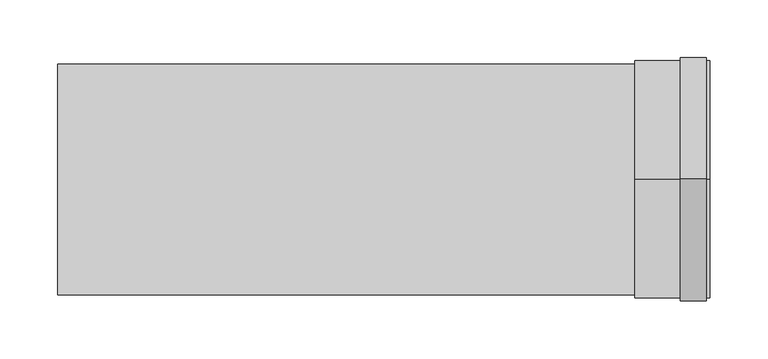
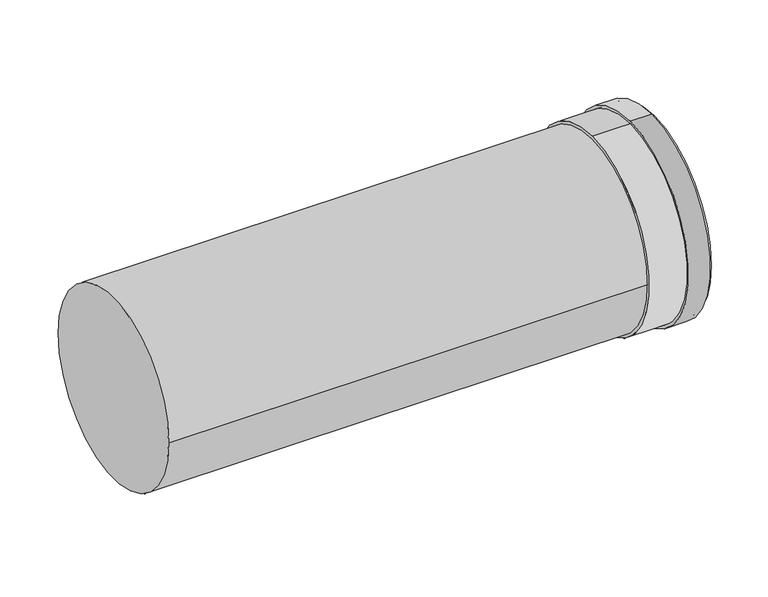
"""IFC4 building model written with IfcOpenShell, lengths in millimetres: duct fitting geometry, RSFen_DUF_UN_Twinline Extension_M&G : ø130-150-200."""

from ifc_helpers import new_model, si_unit, point, frame, origin, origin_2d, place, context, project, spatial, polyline, circle_curve, trimmed, segment, composite_curve, outline, extrude, source, transform, mapped, element, save
from ifc_brep_helpers import plane_surface, cylinder_surface, revolved_surface, advanced_brep


def duct_fitting_3590a55b(model_context):
    return source(origin(), model_context, "Body", "SolidModel", [
        extrude(outline(composite_curve([segment(trimmed(circle_curve(origin_2d(), 106.0), [point((0.0, 106.0))], [point((0.0, -106.0))], False, "CARTESIAN"), True, "CONTINUOUS"), segment(trimmed(circle_curve(origin_2d(), 106.0), [point((0.0, -106.0))], [point((0.0, 106.0))], False, "CARTESIAN"), True, "CONTINUOUS")], self_intersect=False), holes=[composite_curve([segment(trimmed(circle_curve(origin_2d(), 103.0), [point((0.0, -103.0))], [point((0.0, 103.0))], True, "CARTESIAN"), True, "CONTINUOUS"), segment(trimmed(circle_curve(origin_2d(), 103.0), [point((0.0, 103.0))], [point((0.0, -103.0))], True, "CARTESIAN"), True, "CONTINUOUS")], self_intersect=False)]), frame((539.5, 0.0, 0.0), z_axis=(1.0, 0.0, 0.0), x_axis=(0.0, 1.0, 0.0)), (0.0, 0.0, 1.0), 22.5),
        advanced_brep(
        [(565.0, 0.0, -103.0), (565.0, 0.0, 103.0), (565.0, 0.0, 99.0), (565.0, 0.0, -99.0), (500.0, 0.0, -103.0), (500.0, 0.0, 103.0), (505.0, 0.0, -99.0), (505.0, 0.0, 99.0)],
        [
            (0, 1, circle_curve(frame((565.0, 0.0, 0.0), z_axis=(1.0, 0.0, 0.0), x_axis=(0.0, 0.0, 1.0)), 103.0)),
            (1, 0, circle_curve(frame((565.0, 0.0, 0.0), z_axis=(1.0, 0.0, 0.0), x_axis=(0.0, 0.0, 1.0)), 103.0)),
            (2, 3, circle_curve(frame((565.0, 0.0, 0.0), z_axis=(-1.0, 0.0, 0.0), x_axis=(0.0, 0.0, 1.0)), 99.0)),
            (3, 2, circle_curve(frame((565.0, 0.0, 0.0), z_axis=(-1.0, 0.0, 0.0), x_axis=(0.0, 0.0, 1.0)), 99.0)),
            (4, 5, circle_curve(frame((500.0, 0.0, 0.0), z_axis=(-1.0, 0.0, 0.0), x_axis=(0.0, 0.0, 1.0)), 103.0)),
            (5, 4, circle_curve(frame((500.0, 0.0, 0.0), z_axis=(-1.0, 0.0, 0.0), x_axis=(0.0, 0.0, 1.0)), 103.0)),
            (0, 4),
            (5, 1),
            (6, 7, circle_curve(frame((505.0, 0.0, 0.0), z_axis=(1.0, 0.0, 0.0), x_axis=(0.0, 0.0, 1.0)), 99.0)),
            (7, 6, circle_curve(frame((505.0, 0.0, 0.0), z_axis=(1.0, 0.0, 0.0), x_axis=(0.0, 0.0, 1.0)), 99.0)),
            (6, 3),
            (2, 7),
        ],
        [
            plane_surface(frame((565.0, 0.0, 103.0), z_axis=(1.0, 0.0, 0.0), x_axis=(0.0, -1.0, 0.0))),
            plane_surface(frame((500.0, 0.0, 103.0), z_axis=(-1.0, 0.0, 0.0), x_axis=(0.0, 1.0, 0.0))),
            cylinder_surface(frame((500.0, 0.0, 0.0), z_axis=(1.0, 0.0, 0.0), x_axis=(0.0, 0.0, 1.0)), 103.0),
            plane_surface(frame((505.0, 0.0, 99.0), z_axis=(1.0, 0.0, 0.0), x_axis=(0.0, 1.0, 0.0))),
            revolved_surface(polyline([(565.0, 0.0, 99.0), (505.0, 0.0, 99.0)]), (505.0, 0.0, 0.0), (1.0, 0.0, 0.0)),
        ],
        [
            (0, [[1, 2], [3, 4]]),
            (1, [[5, 6]]),
            (2, [[-1, 7, -6, 8]]),
            (2, [[-2, -8, -5, -7]]),
            (3, [[9, 10]]),
            (4, [[-9, 11, -3, 12]]),
            (4, [[-10, -12, -4, -11]]),
        ],
    ),
        extrude(outline(composite_curve([segment(trimmed(circle_curve(origin_2d(), 100.0), [point((100.0, 0.0))], [point((-100.0, 0.0))], False, "CARTESIAN"), True, "CONTINUOUS"), segment(trimmed(circle_curve(origin_2d(), 100.0), [point((-100.0, 0.0))], [point((100.0, 0.0))], False, "CARTESIAN"), True, "CONTINUOUS")], self_intersect=False)), frame((-2.39e-05, 0.0, 0.0), z_axis=(1.0, 0.0, 0.0), x_axis=(0.0, 1.0, 0.0)), (0.0, 0.0, 1.0), 505.0),
    ])


if __name__ == "__main__":
    model = new_model("IFC4")
    model_context = context("Model", 3, world=origin())
    ifc_project = project(units=[si_unit("LENGTHUNIT", "METRE", prefix="MILLI")], contexts=[model_context])
    site = spatial("IfcSite", under=ifc_project)
    building = spatial("IfcBuilding", under=site)
    placement = place(None, origin())
    duct_fitting_shape = duct_fitting_3590a55b(model_context)
    element("IfcDuctFitting", 1, ObjectType="RSFen_DUF_UN_Twinline Extension_M&G : ø130-150-200", at=placement, inside=building, context=model_context, shape_type="MappedRepresentation", body=[
        mapped(duct_fitting_shape, transform((0.0, 0.0, 0.0), x_axis=(1.0, 0.0, 0.0), y_axis=(0.0, 1.0, 0.0), z_axis=(0.0, 0.0, 1.0))),
    ])
    save(model, "model.ifc")
